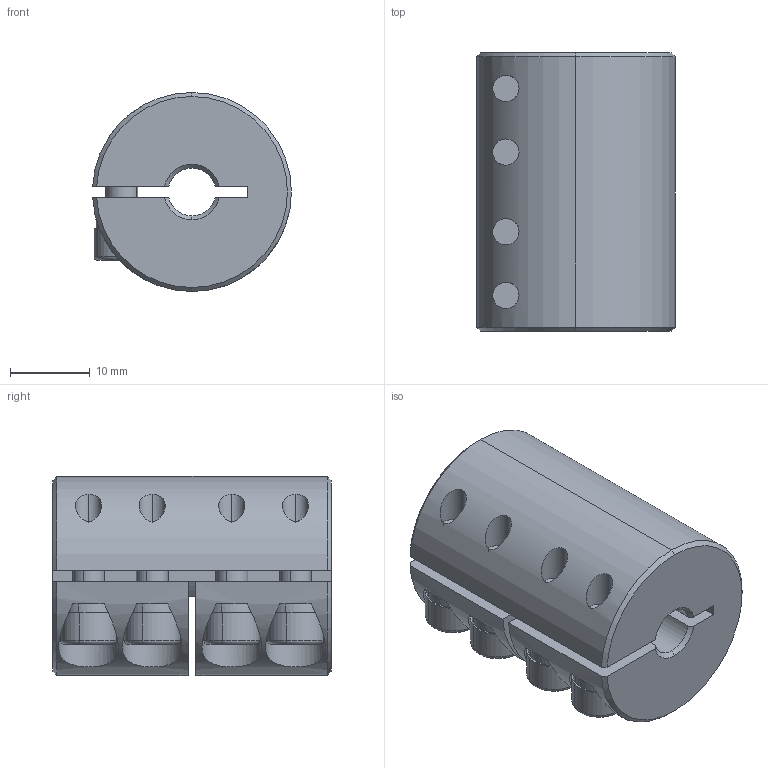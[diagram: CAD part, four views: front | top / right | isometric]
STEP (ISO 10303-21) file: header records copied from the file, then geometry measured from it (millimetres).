
FILE_DESCRIPTION (( 'STEP AP203' ), '1' );
FILE_NAME ('LL-B-D25L35-6-6.35.STEP', '2021-11-05T06:52:23', ( '' ), ( '' ), 'SwSTEP 2.0', 'SolidWorks 2018', '' );
FILE_SCHEMA (( 'CONFIG_CONTROL_DESIGN' ));
Length unit declared in the file: millimetre
Products named in the file (1): LL-B-D25L35-6-6.35
Bounding box: 24.98 x 35 x 25 mm (x, y, z)
Volume: 14960.2 mm3; surface area: 6871.9 mm2
Topology: 1 solids, 1 shells, 192 faces, 493 edges, 307 vertices
Faces by surface type: plane 92, cylinder 72, cone 20, torus 8
Entity records: 6313 total; most frequent: CARTESIAN_POINT 1497, DIRECTION 1042, ORIENTED_EDGE 970, EDGE_CURVE 485, AXIS2_PLACEMENT_3D 404, VERTEX_POINT 307, LINE 234, VECTOR 234
